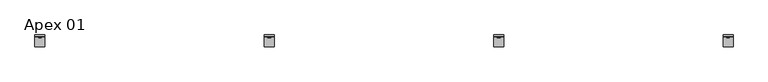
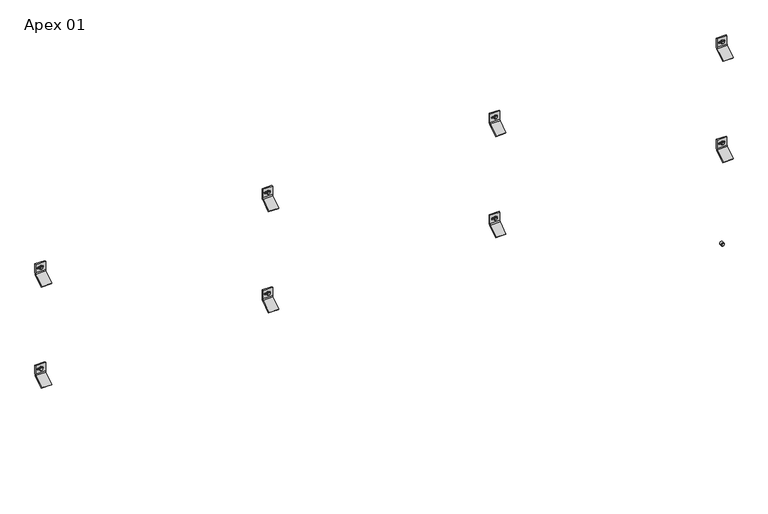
"""IFC4 building model written with IfcOpenShell, lengths in millimetres: plate geometry, Single-Panel-Perforated-Amico_Architectural : Apex 01."""

from ifc_helpers import new_model, si_unit, point, frame, frame_2d, origin, place, context, project, spatial, polyline, circle_curve, trimmed, segment, composite_curve, outline, extrude, source, transform, mapped, element, save
from ifc_brep_helpers import plane_surface, cylinder_surface, revolved_surface, advanced_brep


def apex_01_5bf36cf1(model_context):
    return source(origin(), model_context, "Body", "SolidModel", [
        extrude(outline(polyline([(1398.6045323, 1303.0820034), (1394.2588197, 1305.5910017), (1394.2588197, 1310.6089983), (1398.6045323, 1313.1179966), (1402.9502448, 1310.6089983), (1402.9502448, 1305.5910017), (1398.6045323, 1303.0820034)])), frame((0.0, -58.7607779, 0.0), z_axis=(0.0, 1.0, 0.0), x_axis=(0.0, 0.0, 1.0)), (0.0, 0.0, 1.0), 11.1357779),
        extrude(outline(composite_curve([segment(trimmed(circle_curve(frame_2d((1398.6978392, 1308.1)), 6.35), [point((1398.6978392, 1314.45))], [point((1398.6978392, 1301.75))], False, "CARTESIAN"), True, "CONTINUOUS"), segment(trimmed(circle_curve(frame_2d((1398.6978392, 1308.1)), 6.35), [point((1398.6978392, 1301.75))], [point((1398.6978392, 1314.45))], False, "CARTESIAN"), True, "CONTINUOUS")], self_intersect=False)), frame((0.0, -57.0817743, 0.0), z_axis=(0.0, 1.0, 0.0), x_axis=(0.0, 0.0, 1.0)), (0.0, 0.0, 1.0), 9.4567743),
        advanced_brep(
        [(1289.05, -47.625, 1381.4552202), (1289.05, -51.2819443, 1373.7931877), (1289.05, -89.5163624, 1347.02116), (1289.05, -92.9330442, 1350.4378418), (1289.05, -54.3526876, 1377.4520983), (1289.05, -52.4002, 1381.4552911), (1289.05, -52.4002, 1415.6479053), (1289.05, -47.625, 1415.6479053), (1327.15, -47.625, 1381.4552202), (1327.15, -47.625, 1415.6479053), (1327.15, -52.4002, 1415.6479053), (1327.15, -52.4002, 1381.4552911), (1327.15, -54.3526876, 1377.4520983), (1327.15, -92.9330442, 1350.4378418), (1327.15, -89.5163624, 1347.02116), (1327.15, -51.2819443, 1373.7931877), (1314.8411889, -52.4002, 1401.6026891), (1314.8411889, -52.4002, 1395.2526891), (1298.6133287, -52.4002, 1395.2526891), (1298.6133287, -52.4002, 1401.6026891), (1314.8411889, -47.625, 1395.2526891), (1314.8411889, -47.625, 1401.6026891), (1298.6133287, -47.625, 1401.6026891), (1298.6133287, -47.625, 1395.2526891)],
        [
            (0, 1, circle_curve(frame((1289.05, -57.4802202, 1381.4552202), z_axis=(-1.0, 0.0, 0.0), x_axis=(0.0, -1.0, 0.0)), 9.8552202)),
            (1, 2),
            (2, 3),
            (3, 4),
            (4, 5, circle_curve(frame((1289.05, -57.4803246, 1381.4552911), z_axis=(1.0, 0.0, 0.0), x_axis=(0.0, -1.0, 0.0)), 5.0801246)),
            (5, 6),
            (6, 7),
            (7, 0),
            (8, 9),
            (9, 10),
            (10, 11),
            (11, 12, circle_curve(frame((1327.15, -57.4803246, 1381.4552911), z_axis=(-1.0, 0.0, 0.0), x_axis=(0.0, -1.0, 0.0)), 5.0801246)),
            (12, 13),
            (13, 14),
            (14, 15),
            (15, 8, circle_curve(frame((1327.15, -57.4802202, 1381.4552202), z_axis=(1.0, 0.0, 0.0), x_axis=(0.0, -1.0, 0.0)), 9.8552202)),
            (4, 12),
            (11, 5),
            (10, 6),
            (16, 17, circle_curve(frame((1314.8411889, -52.4002, 1398.4276891), z_axis=(0.0, 1.0, 0.0), x_axis=(0.0, 0.0, -1.0)), 3.175)),
            (17, 18),
            (18, 19, circle_curve(frame((1298.6133287, -52.4002, 1398.4276891), z_axis=(0.0, 1.0, 0.0), x_axis=(0.0, 0.0, -1.0)), 3.175)),
            (19, 16),
            (9, 7),
            (8, 0),
            (20, 21, circle_curve(frame((1314.8411889, -47.625, 1398.4276891), z_axis=(0.0, -1.0, 0.0), x_axis=(0.0, 0.0, -1.0)), 3.175)),
            (21, 22),
            (22, 23, circle_curve(frame((1298.6133287, -47.625, 1398.4276891), z_axis=(0.0, -1.0, 0.0), x_axis=(0.0, 0.0, -1.0)), 3.175)),
            (23, 20),
            (15, 1),
            (20, 17),
            (16, 21),
            (19, 22),
            (18, 23),
            (14, 2),
            (13, 3),
        ],
        [
            plane_surface(frame((1289.05, -67.3354404, 1381.4552202), z_axis=(-1.0, 0.0, 0.0), x_axis=(0.0, 0.0, 1.0))),
            plane_surface(frame((1327.15, -67.3354404, 1381.4552202), z_axis=(1.0, 0.0, 0.0), x_axis=(0.0, 0.0, -1.0))),
            revolved_surface(polyline([(1327.15, -62.5604492, 1381.4552911), (1289.05, -62.5604492, 1381.4552911)]), (1327.15, -57.4803246, 1381.4552911), (1.0, 0.0, 0.0)),
            plane_surface(frame((1289.05, -52.4002, 1381.4552911), z_axis=(0.0, -1.0, 0.0), x_axis=(1.0, 0.0, 0.0))),
            plane_surface(frame((1289.05, -52.4002, 1415.6479053), z_axis=(0.0, 0.0, 1.0), x_axis=(1.0, 0.0, 0.0))),
            plane_surface(frame((1289.05, -47.625, 1415.6479053), z_axis=(0.0, 1.0, 6.99569853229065e-12), x_axis=(1.0, 0.0, 0.0))),
            cylinder_surface(frame((1327.15, -57.4802202, 1381.4552202), z_axis=(-1.0, 0.0, 0.0), x_axis=(0.0, -1.0, 0.0)), 9.8552202),
            revolved_surface(polyline([(1314.8411889, -52.4002, 1395.2526891), (1314.8411889, -47.625, 1395.2526891)]), (1314.8411889, -25.6669948, 1398.4276891), (0.0, -1.0, 0.0)),
            plane_surface(frame((1314.8411889, -86.677982, 1401.6026891), z_axis=(0.0, 0.0, -1.0), x_axis=(0.0, 1.0, 0.0))),
            revolved_surface(polyline([(1298.6133287, -52.4002, 1395.2526891), (1298.6133287, -47.625, 1395.2526891)]), (1298.6133287, -25.6669948, 1398.4276891), (0.0, -1.0, 0.0)),
            plane_surface(frame((1298.6133287, -86.677982, 1395.2526891), z_axis=(-2.7237720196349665e-11, 0.0, 1.0), x_axis=(0.0, 1.0, 0.0))),
            plane_surface(frame((1289.05, -51.2819443, 1373.7931877), z_axis=(0.0, 0.5735764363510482, -0.8191520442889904), x_axis=(1.0, 0.0, 0.0))),
            plane_surface(frame((1289.05, -89.5163624, 1347.02116), z_axis=(0.0, -0.7071067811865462, -0.7071067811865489), x_axis=(1.0, 0.0, 0.0))),
            plane_surface(frame((1289.05, -92.9330442, 1350.4378418), z_axis=(0.0, -0.5735764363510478, 0.8191520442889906), x_axis=(1.0, 0.0, 0.0))),
        ],
        [
            (0, [[1, 2, 3, 4, 5, 6, 7, 8]]),
            (1, [[9, 10, 11, 12, 13, 14, 15, 16]]),
            (2, [[-5, 17, -12, 18]]),
            (3, [[-6, -18, -11, 19], [20, 21, 22, 23]]),
            (4, [[-7, -19, -10, 24]]),
            (5, [[-8, -24, -9, 25], [26, 27, 28, 29]]),
            (6, [[-1, -25, -16, 30]]),
            (7, [[31, -20, 32, -26]]),
            (8, [[-32, -23, 33, -27]]),
            (9, [[-33, -22, 34, -28]]),
            (10, [[-31, -29, -34, -21]]),
            (11, [[-2, -30, -15, 35]]),
            (12, [[-3, -35, -14, 36]]),
            (13, [[-4, -36, -13, -17]]),
        ],
    ),
        extrude(outline(polyline([(1398.6045323, 431.0153368), (1394.2588197, 433.524335), (1394.2588197, 438.5423316), (1398.6045323, 441.0513299), (1402.9502448, 438.5423316), (1402.9502448, 433.524335), (1398.6045323, 431.0153368)])), frame((0.0, -58.7607779, 0.0), z_axis=(0.0, 1.0, 0.0), x_axis=(0.0, 0.0, 1.0)), (0.0, 0.0, 1.0), 11.1357779),
        extrude(outline(composite_curve([segment(trimmed(circle_curve(frame_2d((1398.6978392, 436.0333333)), 6.35), [point((1398.6978392, 442.3833333))], [point((1398.6978392, 429.6833333))], False, "CARTESIAN"), True, "CONTINUOUS"), segment(trimmed(circle_curve(frame_2d((1398.6978392, 436.0333333)), 6.35), [point((1398.6978392, 429.6833333))], [point((1398.6978392, 442.3833333))], False, "CARTESIAN"), True, "CONTINUOUS")], self_intersect=False)), frame((0.0, -57.0817743, 0.0), z_axis=(0.0, 1.0, 0.0), x_axis=(0.0, 0.0, 1.0)), (0.0, 0.0, 1.0), 9.4567743),
        advanced_brep(
        [(416.9833333, -47.625, 1381.4552202), (416.9833333, -51.2819443, 1373.7931877), (416.9833333, -89.5163624, 1347.02116), (416.9833333, -92.9330442, 1350.4378418), (416.9833333, -54.3526876, 1377.4520983), (416.9833333, -52.4002, 1381.4552911), (416.9833333, -52.4002, 1415.6479053), (416.9833333, -47.625, 1415.6479053), (455.0833333, -47.625, 1381.4552202), (455.0833333, -47.625, 1415.6479053), (455.0833333, -52.4002, 1415.6479053), (455.0833333, -52.4002, 1381.4552911), (455.0833333, -54.3526876, 1377.4520983), (455.0833333, -92.9330442, 1350.4378418), (455.0833333, -89.5163624, 1347.02116), (455.0833333, -51.2819443, 1373.7931877), (442.7745222, -52.4002, 1401.6026891), (442.7745222, -52.4002, 1395.2526891), (426.546662, -52.4002, 1395.2526891), (426.546662, -52.4002, 1401.6026891), (442.7745222, -47.625, 1395.2526891), (442.7745222, -47.625, 1401.6026891), (426.546662, -47.625, 1401.6026891), (426.546662, -47.625, 1395.2526891)],
        [
            (0, 1, circle_curve(frame((416.9833333, -57.4802202, 1381.4552202), z_axis=(-1.0, 0.0, 0.0), x_axis=(0.0, -1.0, 0.0)), 9.8552202)),
            (1, 2),
            (2, 3),
            (3, 4),
            (4, 5, circle_curve(frame((416.9833333, -57.4803246, 1381.4552911), z_axis=(1.0, 0.0, 0.0), x_axis=(0.0, -1.0, 0.0)), 5.0801246)),
            (5, 6),
            (6, 7),
            (7, 0),
            (8, 9),
            (9, 10),
            (10, 11),
            (11, 12, circle_curve(frame((455.0833333, -57.4803246, 1381.4552911), z_axis=(-1.0, 0.0, 0.0), x_axis=(0.0, -1.0, 0.0)), 5.0801246)),
            (12, 13),
            (13, 14),
            (14, 15),
            (15, 8, circle_curve(frame((455.0833333, -57.4802202, 1381.4552202), z_axis=(1.0, 0.0, 0.0), x_axis=(0.0, -1.0, 0.0)), 9.8552202)),
            (4, 12),
            (11, 5),
            (10, 6),
            (16, 17, circle_curve(frame((442.7745222, -52.4002, 1398.4276891), z_axis=(0.0, 1.0, 0.0), x_axis=(0.0, 0.0, -1.0)), 3.175)),
            (17, 18),
            (18, 19, circle_curve(frame((426.546662, -52.4002, 1398.4276891), z_axis=(0.0, 1.0, 0.0), x_axis=(0.0, 0.0, -1.0)), 3.175)),
            (19, 16),
            (9, 7),
            (8, 0),
            (20, 21, circle_curve(frame((442.7745222, -47.625, 1398.4276891), z_axis=(0.0, -1.0, 0.0), x_axis=(0.0, 0.0, -1.0)), 3.175)),
            (21, 22),
            (22, 23, circle_curve(frame((426.546662, -47.625, 1398.4276891), z_axis=(0.0, -1.0, 0.0), x_axis=(0.0, 0.0, -1.0)), 3.175)),
            (23, 20),
            (15, 1),
            (20, 17),
            (16, 21),
            (19, 22),
            (18, 23),
            (14, 2),
            (13, 3),
        ],
        [
            plane_surface(frame((416.9833333, -67.3354404, 1381.4552202), z_axis=(-1.0, 0.0, 0.0), x_axis=(0.0, 0.0, 1.0))),
            plane_surface(frame((455.0833333, -67.3354404, 1381.4552202), z_axis=(1.0, 0.0, 0.0), x_axis=(0.0, 0.0, -1.0))),
            revolved_surface(polyline([(455.0833333, -62.5604492, 1381.4552911), (416.9833333, -62.5604492, 1381.4552911)]), (455.0833333, -57.4803246, 1381.4552911), (1.0, 0.0, 0.0)),
            plane_surface(frame((416.9833333, -52.4002, 1381.4552911), z_axis=(0.0, -1.0, 0.0), x_axis=(1.0, 0.0, 0.0))),
            plane_surface(frame((416.9833333, -52.4002, 1415.6479053), z_axis=(0.0, 0.0, 1.0), x_axis=(1.0, 0.0, 0.0))),
            plane_surface(frame((416.9833333, -47.625, 1415.6479053), z_axis=(0.0, 1.0, 6.99569853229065e-12), x_axis=(1.0, 0.0, 0.0))),
            cylinder_surface(frame((455.0833333, -57.4802202, 1381.4552202), z_axis=(-1.0, 0.0, 0.0), x_axis=(0.0, -1.0, 0.0)), 9.8552202),
            revolved_surface(polyline([(442.7745222, -52.4002, 1395.2526891), (442.7745222, -47.625, 1395.2526891)]), (442.7745222, -25.6669948, 1398.4276891), (0.0, -1.0, 0.0)),
            plane_surface(frame((442.7745222, -86.677982, 1401.6026891), z_axis=(0.0, 0.0, -1.0), x_axis=(0.0, 1.0, 0.0))),
            revolved_surface(polyline([(426.546662, -52.4002, 1395.2526891), (426.546662, -47.625, 1395.2526891)]), (426.546662, -25.6669948, 1398.4276891), (0.0, -1.0, 0.0)),
            plane_surface(frame((426.546662, -86.677982, 1395.2526891), z_axis=(-2.7237720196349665e-11, 0.0, 1.0), x_axis=(0.0, 1.0, 0.0))),
            plane_surface(frame((416.9833333, -51.2819443, 1373.7931877), z_axis=(0.0, 0.5735764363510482, -0.8191520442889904), x_axis=(1.0, 0.0, 0.0))),
            plane_surface(frame((416.9833333, -89.5163624, 1347.02116), z_axis=(0.0, -0.7071067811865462, -0.7071067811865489), x_axis=(1.0, 0.0, 0.0))),
            plane_surface(frame((416.9833333, -92.9330442, 1350.4378418), z_axis=(0.0, -0.5735764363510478, 0.8191520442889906), x_axis=(1.0, 0.0, 0.0))),
        ],
        [
            (0, [[1, 2, 3, 4, 5, 6, 7, 8]]),
            (1, [[9, 10, 11, 12, 13, 14, 15, 16]]),
            (2, [[-5, 17, -12, 18]]),
            (3, [[-6, -18, -11, 19], [20, 21, 22, 23]]),
            (4, [[-7, -19, -10, 24]]),
            (5, [[-8, -24, -9, 25], [26, 27, 28, 29]]),
            (6, [[-1, -25, -16, 30]]),
            (7, [[31, -20, 32, -26]]),
            (8, [[-32, -23, 33, -27]]),
            (9, [[-33, -22, 34, -28]]),
            (10, [[-31, -29, -34, -21]]),
            (11, [[-2, -30, -15, 35]]),
            (12, [[-3, -35, -14, 36]]),
            (13, [[-4, -36, -13, -17]]),
        ],
    ),
        extrude(outline(polyline([(1398.6045323, -441.0513299), (1394.2588197, -438.5423316), (1394.2588197, -433.524335), (1398.6045323, -431.0153368), (1402.9502448, -433.524335), (1402.9502448, -438.5423316), (1398.6045323, -441.0513299)])), frame((0.0, -58.7607779, 0.0), z_axis=(0.0, 1.0, 0.0), x_axis=(0.0, 0.0, 1.0)), (0.0, 0.0, 1.0), 11.1357779),
        extrude(outline(composite_curve([segment(trimmed(circle_curve(frame_2d((1398.6978392, -436.0333333)), 6.35), [point((1398.6978392, -429.6833333))], [point((1398.6978392, -442.3833333))], False, "CARTESIAN"), True, "CONTINUOUS"), segment(trimmed(circle_curve(frame_2d((1398.6978392, -436.0333333)), 6.35), [point((1398.6978392, -442.3833333))], [point((1398.6978392, -429.6833333))], False, "CARTESIAN"), True, "CONTINUOUS")], self_intersect=False)), frame((0.0, -57.0817743, 0.0), z_axis=(0.0, 1.0, 0.0), x_axis=(0.0, 0.0, 1.0)), (0.0, 0.0, 1.0), 9.4567743),
        advanced_brep(
        [(-455.0833333, -47.625, 1381.4552202), (-455.0833333, -51.2819443, 1373.7931877), (-455.0833333, -89.5163624, 1347.02116), (-455.0833333, -92.9330442, 1350.4378418), (-455.0833333, -54.3526876, 1377.4520983), (-455.0833333, -52.4002, 1381.4552911), (-455.0833333, -52.4002, 1415.6479053), (-455.0833333, -47.625, 1415.6479053), (-416.9833333, -47.625, 1381.4552202), (-416.9833333, -47.625, 1415.6479053), (-416.9833333, -52.4002, 1415.6479053), (-416.9833333, -52.4002, 1381.4552911), (-416.9833333, -54.3526876, 1377.4520983), (-416.9833333, -92.9330442, 1350.4378418), (-416.9833333, -89.5163624, 1347.02116), (-416.9833333, -51.2819443, 1373.7931877), (-429.2921444, -52.4002, 1401.6026891), (-429.2921444, -52.4002, 1395.2526891), (-445.5200046, -52.4002, 1395.2526891), (-445.5200046, -52.4002, 1401.6026891), (-429.2921444, -47.625, 1395.2526891), (-429.2921444, -47.625, 1401.6026891), (-445.5200046, -47.625, 1401.6026891), (-445.5200046, -47.625, 1395.2526891)],
        [
            (0, 1, circle_curve(frame((-455.0833333, -57.4802202, 1381.4552202), z_axis=(-1.0, 0.0, 0.0), x_axis=(0.0, -1.0, 0.0)), 9.8552202)),
            (1, 2),
            (2, 3),
            (3, 4),
            (4, 5, circle_curve(frame((-455.0833333, -57.4803246, 1381.4552911), z_axis=(1.0, 0.0, 0.0), x_axis=(0.0, -1.0, 0.0)), 5.0801246)),
            (5, 6),
            (6, 7),
            (7, 0),
            (8, 9),
            (9, 10),
            (10, 11),
            (11, 12, circle_curve(frame((-416.9833333, -57.4803246, 1381.4552911), z_axis=(-1.0, 0.0, 0.0), x_axis=(0.0, -1.0, 0.0)), 5.0801246)),
            (12, 13),
            (13, 14),
            (14, 15),
            (15, 8, circle_curve(frame((-416.9833333, -57.4802202, 1381.4552202), z_axis=(1.0, 0.0, 0.0), x_axis=(0.0, -1.0, 0.0)), 9.8552202)),
            (4, 12),
            (11, 5),
            (10, 6),
            (16, 17, circle_curve(frame((-429.2921444, -52.4002, 1398.4276891), z_axis=(0.0, 1.0, 0.0), x_axis=(0.0, 0.0, -1.0)), 3.175)),
            (17, 18),
            (18, 19, circle_curve(frame((-445.5200046, -52.4002, 1398.4276891), z_axis=(0.0, 1.0, 0.0), x_axis=(0.0, 0.0, -1.0)), 3.175)),
            (19, 16),
            (9, 7),
            (8, 0),
            (20, 21, circle_curve(frame((-429.2921444, -47.625, 1398.4276891), z_axis=(0.0, -1.0, 0.0), x_axis=(0.0, 0.0, -1.0)), 3.175)),
            (21, 22),
            (22, 23, circle_curve(frame((-445.5200046, -47.625, 1398.4276891), z_axis=(0.0, -1.0, 0.0), x_axis=(0.0, 0.0, -1.0)), 3.175)),
            (23, 20),
            (15, 1),
            (20, 17),
            (16, 21),
            (19, 22),
            (18, 23),
            (14, 2),
            (13, 3),
        ],
        [
            plane_surface(frame((-455.0833333, -67.3354404, 1381.4552202), z_axis=(-1.0, 0.0, 0.0), x_axis=(0.0, 0.0, 1.0))),
            plane_surface(frame((-416.9833333, -67.3354404, 1381.4552202), z_axis=(1.0, 0.0, 0.0), x_axis=(0.0, 0.0, -1.0))),
            revolved_surface(polyline([(-416.9833333, -62.5604492, 1381.4552911), (-455.0833333, -62.5604492, 1381.4552911)]), (-416.9833333, -57.4803246, 1381.4552911), (1.0, 0.0, 0.0)),
            plane_surface(frame((-455.0833333, -52.4002, 1381.4552911), z_axis=(0.0, -1.0, 0.0), x_axis=(1.0, 0.0, 0.0))),
            plane_surface(frame((-455.0833333, -52.4002, 1415.6479053), z_axis=(0.0, 0.0, 1.0), x_axis=(1.0, 0.0, 0.0))),
            plane_surface(frame((-455.0833333, -47.625, 1415.6479053), z_axis=(0.0, 1.0, 6.99569853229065e-12), x_axis=(1.0, 0.0, 0.0))),
            cylinder_surface(frame((-416.9833333, -57.4802202, 1381.4552202), z_axis=(-1.0, 0.0, 0.0), x_axis=(0.0, -1.0, 0.0)), 9.8552202),
            revolved_surface(polyline([(-429.2921444, -52.4002, 1395.2526891), (-429.2921444, -47.625, 1395.2526891)]), (-429.2921444, -25.6669948, 1398.4276891), (0.0, -1.0, 0.0)),
            plane_surface(frame((-429.2921444, -86.677982, 1401.6026891), z_axis=(0.0, 0.0, -1.0), x_axis=(0.0, 1.0, 0.0))),
            revolved_surface(polyline([(-445.5200046, -52.4002, 1395.2526891), (-445.5200046, -47.625, 1395.2526891)]), (-445.5200046, -25.6669948, 1398.4276891), (0.0, -1.0, 0.0)),
            plane_surface(frame((-445.5200046, -86.677982, 1395.2526891), z_axis=(-2.7237720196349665e-11, 0.0, 1.0), x_axis=(0.0, 1.0, 0.0))),
            plane_surface(frame((-455.0833333, -51.2819443, 1373.7931877), z_axis=(0.0, 0.5735764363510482, -0.8191520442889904), x_axis=(1.0, 0.0, 0.0))),
            plane_surface(frame((-455.0833333, -89.5163624, 1347.02116), z_axis=(0.0, -0.7071067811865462, -0.7071067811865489), x_axis=(1.0, 0.0, 0.0))),
            plane_surface(frame((-455.0833333, -92.9330442, 1350.4378418), z_axis=(0.0, -0.5735764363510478, 0.8191520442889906), x_axis=(1.0, 0.0, 0.0))),
        ],
        [
            (0, [[1, 2, 3, 4, 5, 6, 7, 8]]),
            (1, [[9, 10, 11, 12, 13, 14, 15, 16]]),
            (2, [[-5, 17, -12, 18]]),
            (3, [[-6, -18, -11, 19], [20, 21, 22, 23]]),
            (4, [[-7, -19, -10, 24]]),
            (5, [[-8, -24, -9, 25], [26, 27, 28, 29]]),
            (6, [[-1, -25, -16, 30]]),
            (7, [[31, -20, 32, -26]]),
            (8, [[-32, -23, 33, -27]]),
            (9, [[-33, -22, 34, -28]]),
            (10, [[-31, -29, -34, -21]]),
            (11, [[-2, -30, -15, 35]]),
            (12, [[-3, -35, -14, 36]]),
            (13, [[-4, -36, -13, -17]]),
        ],
    ),
        extrude(outline(polyline([(1398.6045323, -1313.1179966), (1394.2588197, -1310.6089983), (1394.2588197, -1305.5910017), (1398.6045323, -1303.0820034), (1402.9502448, -1305.5910017), (1402.9502448, -1310.6089983), (1398.6045323, -1313.1179966)])), frame((0.0, -58.7607779, 0.0), z_axis=(0.0, 1.0, 0.0), x_axis=(0.0, 0.0, 1.0)), (0.0, 0.0, 1.0), 11.1357779),
        extrude(outline(composite_curve([segment(trimmed(circle_curve(frame_2d((1398.6978392, -1308.1)), 6.35), [point((1398.6978392, -1301.75))], [point((1398.6978392, -1314.45))], False, "CARTESIAN"), True, "CONTINUOUS"), segment(trimmed(circle_curve(frame_2d((1398.6978392, -1308.1)), 6.35), [point((1398.6978392, -1314.45))], [point((1398.6978392, -1301.75))], False, "CARTESIAN"), True, "CONTINUOUS")], self_intersect=False)), frame((0.0, -57.0817743, 0.0), z_axis=(0.0, 1.0, 0.0), x_axis=(0.0, 0.0, 1.0)), (0.0, 0.0, 1.0), 9.4567743),
        advanced_brep(
        [(-1327.15, -47.625, 1381.4552202), (-1327.15, -51.2819443, 1373.7931877), (-1327.15, -89.5163624, 1347.02116), (-1327.15, -92.9330442, 1350.4378418), (-1327.15, -54.3526876, 1377.4520983), (-1327.15, -52.4002, 1381.4552911), (-1327.15, -52.4002, 1415.6479053), (-1327.15, -47.625, 1415.6479053), (-1289.05, -47.625, 1381.4552202), (-1289.05, -47.625, 1415.6479053), (-1289.05, -52.4002, 1415.6479053), (-1289.05, -52.4002, 1381.4552911), (-1289.05, -54.3526876, 1377.4520983), (-1289.05, -92.9330442, 1350.4378418), (-1289.05, -89.5163624, 1347.02116), (-1289.05, -51.2819443, 1373.7931877), (-1301.3588111, -52.4002, 1401.6026891), (-1301.3588111, -52.4002, 1395.2526891), (-1317.5866713, -52.4002, 1395.2526891), (-1317.5866713, -52.4002, 1401.6026891), (-1301.3588111, -47.625, 1395.2526891), (-1301.3588111, -47.625, 1401.6026891), (-1317.5866713, -47.625, 1401.6026891), (-1317.5866713, -47.625, 1395.2526891)],
        [
            (0, 1, circle_curve(frame((-1327.15, -57.4802202, 1381.4552202), z_axis=(-1.0, 0.0, 0.0), x_axis=(0.0, -1.0, 0.0)), 9.8552202)),
            (1, 2),
            (2, 3),
            (3, 4),
            (4, 5, circle_curve(frame((-1327.15, -57.4803246, 1381.4552911), z_axis=(1.0, 0.0, 0.0), x_axis=(0.0, -1.0, 0.0)), 5.0801246)),
            (5, 6),
            (6, 7),
            (7, 0),
            (8, 9),
            (9, 10),
            (10, 11),
            (11, 12, circle_curve(frame((-1289.05, -57.4803246, 1381.4552911), z_axis=(-1.0, 0.0, 0.0), x_axis=(0.0, -1.0, 0.0)), 5.0801246)),
            (12, 13),
            (13, 14),
            (14, 15),
            (15, 8, circle_curve(frame((-1289.05, -57.4802202, 1381.4552202), z_axis=(1.0, 0.0, 0.0), x_axis=(0.0, -1.0, 0.0)), 9.8552202)),
            (4, 12),
            (11, 5),
            (10, 6),
            (16, 17, circle_curve(frame((-1301.3588111, -52.4002, 1398.4276891), z_axis=(0.0, 1.0, 0.0), x_axis=(0.0, 0.0, -1.0)), 3.175)),
            (17, 18),
            (18, 19, circle_curve(frame((-1317.5866713, -52.4002, 1398.4276891), z_axis=(0.0, 1.0, 0.0), x_axis=(0.0, 0.0, -1.0)), 3.175)),
            (19, 16),
            (9, 7),
            (8, 0),
            (20, 21, circle_curve(frame((-1301.3588111, -47.625, 1398.4276891), z_axis=(0.0, -1.0, 0.0), x_axis=(0.0, 0.0, -1.0)), 3.175)),
            (21, 22),
            (22, 23, circle_curve(frame((-1317.5866713, -47.625, 1398.4276891), z_axis=(0.0, -1.0, 0.0), x_axis=(0.0, 0.0, -1.0)), 3.175)),
            (23, 20),
            (15, 1),
            (20, 17),
            (16, 21),
            (19, 22),
            (18, 23),
            (14, 2),
            (13, 3),
        ],
        [
            plane_surface(frame((-1327.15, -67.3354404, 1381.4552202), z_axis=(-1.0, 0.0, 0.0), x_axis=(0.0, 0.0, 1.0))),
            plane_surface(frame((-1289.05, -67.3354404, 1381.4552202), z_axis=(1.0, 0.0, 0.0), x_axis=(0.0, 0.0, -1.0))),
            revolved_surface(polyline([(-1289.05, -62.5604492, 1381.4552911), (-1327.15, -62.5604492, 1381.4552911)]), (-1289.05, -57.4803246, 1381.4552911), (1.0, 0.0, 0.0)),
            plane_surface(frame((-1327.15, -52.4002, 1381.4552911), z_axis=(0.0, -1.0, 0.0), x_axis=(1.0, 0.0, 0.0))),
            plane_surface(frame((-1327.15, -52.4002, 1415.6479053), z_axis=(0.0, 0.0, 1.0), x_axis=(1.0, 0.0, 0.0))),
            plane_surface(frame((-1327.15, -47.625, 1415.6479053), z_axis=(0.0, 1.0, 6.99569853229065e-12), x_axis=(1.0, 0.0, 0.0))),
            cylinder_surface(frame((-1289.05, -57.4802202, 1381.4552202), z_axis=(-1.0, 0.0, 0.0), x_axis=(0.0, -1.0, 0.0)), 9.8552202),
            revolved_surface(polyline([(-1301.3588111, -52.4002, 1395.2526891), (-1301.3588111, -47.625, 1395.2526891)]), (-1301.3588111, -25.6669948, 1398.4276891), (0.0, -1.0, 0.0)),
            plane_surface(frame((-1301.3588111, -86.677982, 1401.6026891), z_axis=(0.0, 0.0, -1.0), x_axis=(0.0, 1.0, 0.0))),
            revolved_surface(polyline([(-1317.5866713, -52.4002, 1395.2526891), (-1317.5866713, -47.625, 1395.2526891)]), (-1317.5866713, -25.6669948, 1398.4276891), (0.0, -1.0, 0.0)),
            plane_surface(frame((-1317.5866713, -86.677982, 1395.2526891), z_axis=(-2.7237720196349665e-11, 0.0, 1.0), x_axis=(0.0, 1.0, 0.0))),
            plane_surface(frame((-1327.15, -51.2819443, 1373.7931877), z_axis=(0.0, 0.5735764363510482, -0.8191520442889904), x_axis=(1.0, 0.0, 0.0))),
            plane_surface(frame((-1327.15, -89.5163624, 1347.02116), z_axis=(0.0, -0.7071067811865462, -0.7071067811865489), x_axis=(1.0, 0.0, 0.0))),
            plane_surface(frame((-1327.15, -92.9330442, 1350.4378418), z_axis=(0.0, -0.5735764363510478, 0.8191520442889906), x_axis=(1.0, 0.0, 0.0))),
        ],
        [
            (0, [[1, 2, 3, 4, 5, 6, 7, 8]]),
            (1, [[9, 10, 11, 12, 13, 14, 15, 16]]),
            (2, [[-5, 17, -12, 18]]),
            (3, [[-6, -18, -11, 19], [20, 21, 22, 23]]),
            (4, [[-7, -19, -10, 24]]),
            (5, [[-8, -24, -9, 25], [26, 27, 28, 29]]),
            (6, [[-1, -25, -16, 30]]),
            (7, [[31, -20, 32, -26]]),
            (8, [[-32, -23, 33, -27]]),
            (9, [[-33, -22, 34, -28]]),
            (10, [[-31, -29, -34, -21]]),
            (11, [[-2, -30, -15, 35]]),
            (12, [[-3, -35, -14, 36]]),
            (13, [[-4, -36, -13, -17]]),
        ],
    ),
        extrude(outline(polyline([(987.9711989, 1303.0820034), (983.6254864, 1305.5910017), (983.6254864, 1310.6089983), (987.9711989, 1313.1179966), (992.3169114, 1310.6089983), (992.3169114, 1305.5910017), (987.9711989, 1303.0820034)])), frame((0.0, -58.7607779, 0.0), z_axis=(0.0, 1.0, 0.0), x_axis=(0.0, 0.0, 1.0)), (0.0, 0.0, 1.0), 11.1357779),
        extrude(outline(composite_curve([segment(trimmed(circle_curve(frame_2d((988.0645059, 1308.1)), 6.35), [point((988.0645059, 1314.45))], [point((988.0645059, 1301.75))], False, "CARTESIAN"), True, "CONTINUOUS"), segment(trimmed(circle_curve(frame_2d((988.0645059, 1308.1)), 6.35), [point((988.0645059, 1301.75))], [point((988.0645059, 1314.45))], False, "CARTESIAN"), True, "CONTINUOUS")], self_intersect=False)), frame((0.0, -57.0817743, 0.0), z_axis=(0.0, 1.0, 0.0), x_axis=(0.0, 0.0, 1.0)), (0.0, 0.0, 1.0), 9.4567743),
        advanced_brep(
        [(1289.05, -47.625, 970.8218868), (1289.05, -51.2819443, 963.1598544), (1289.05, -89.5163624, 936.3878266), (1289.05, -92.9330442, 939.8045084), (1289.05, -54.3526876, 966.8187649), (1289.05, -52.4002, 970.8219577), (1289.05, -52.4002, 1005.014572), (1289.05, -47.625, 1005.014572), (1327.15, -47.625, 970.8218868), (1327.15, -47.625, 1005.014572), (1327.15, -52.4002, 1005.014572), (1327.15, -52.4002, 970.8219577), (1327.15, -54.3526876, 966.8187649), (1327.15, -92.9330442, 939.8045084), (1327.15, -89.5163624, 936.3878266), (1327.15, -51.2819443, 963.1598544), (1314.8411889, -52.4002, 990.9693558), (1314.8411889, -52.4002, 984.6193558), (1298.6133287, -52.4002, 984.6193558), (1298.6133287, -52.4002, 990.9693558), (1314.8411889, -47.625, 984.6193558), (1314.8411889, -47.625, 990.9693558), (1298.6133287, -47.625, 990.9693558), (1298.6133287, -47.625, 984.6193558)],
        [
            (0, 1, circle_curve(frame((1289.05, -57.4802202, 970.8218868), z_axis=(-1.0, 0.0, 0.0), x_axis=(0.0, -1.0, 0.0)), 9.8552202)),
            (1, 2),
            (2, 3),
            (3, 4),
            (4, 5, circle_curve(frame((1289.05, -57.4803246, 970.8219577), z_axis=(1.0, 0.0, 0.0), x_axis=(0.0, -1.0, 0.0)), 5.0801246)),
            (5, 6),
            (6, 7),
            (7, 0),
            (8, 9),
            (9, 10),
            (10, 11),
            (11, 12, circle_curve(frame((1327.15, -57.4803246, 970.8219577), z_axis=(-1.0, 0.0, 0.0), x_axis=(0.0, -1.0, 0.0)), 5.0801246)),
            (12, 13),
            (13, 14),
            (14, 15),
            (15, 8, circle_curve(frame((1327.15, -57.4802202, 970.8218868), z_axis=(1.0, 0.0, 0.0), x_axis=(0.0, -1.0, 0.0)), 9.8552202)),
            (4, 12),
            (11, 5),
            (10, 6),
            (16, 17, circle_curve(frame((1314.8411889, -52.4002, 987.7943558), z_axis=(0.0, 1.0, 0.0), x_axis=(0.0, 0.0, -1.0)), 3.175)),
            (17, 18),
            (18, 19, circle_curve(frame((1298.6133287, -52.4002, 987.7943558), z_axis=(0.0, 1.0, 0.0), x_axis=(0.0, 0.0, -1.0)), 3.175)),
            (19, 16),
            (9, 7),
            (8, 0),
            (20, 21, circle_curve(frame((1314.8411889, -47.625, 987.7943558), z_axis=(0.0, -1.0, 0.0), x_axis=(0.0, 0.0, -1.0)), 3.175)),
            (21, 22),
            (22, 23, circle_curve(frame((1298.6133287, -47.625, 987.7943558), z_axis=(0.0, -1.0, 0.0), x_axis=(0.0, 0.0, -1.0)), 3.175)),
            (23, 20),
            (15, 1),
            (20, 17),
            (16, 21),
            (19, 22),
            (18, 23),
            (14, 2),
            (13, 3),
        ],
        [
            plane_surface(frame((1289.05, -67.3354404, 970.8218868), z_axis=(-1.0, 0.0, 0.0), x_axis=(0.0, 0.0, 1.0))),
            plane_surface(frame((1327.15, -67.3354404, 970.8218868), z_axis=(1.0, 0.0, 0.0), x_axis=(0.0, 0.0, -1.0))),
            revolved_surface(polyline([(1327.15, -62.5604492, 970.8219577), (1289.05, -62.5604492, 970.8219577)]), (1327.15, -57.4803246, 970.8219577), (1.0, 0.0, 0.0)),
            plane_surface(frame((1289.05, -52.4002, 970.8219577), z_axis=(0.0, -1.0, 0.0), x_axis=(1.0, 0.0, 0.0))),
            plane_surface(frame((1289.05, -52.4002, 1005.014572), z_axis=(0.0, 0.0, 1.0), x_axis=(1.0, 0.0, 0.0))),
            plane_surface(frame((1289.05, -47.625, 1005.014572), z_axis=(0.0, 1.0, 6.99569853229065e-12), x_axis=(1.0, 0.0, 0.0))),
            cylinder_surface(frame((1327.15, -57.4802202, 970.8218868), z_axis=(-1.0, 0.0, 0.0), x_axis=(0.0, -1.0, 0.0)), 9.8552202),
            revolved_surface(polyline([(1314.8411889, -52.4002, 984.6193558), (1314.8411889, -47.625, 984.6193558)]), (1314.8411889, -25.6669948, 987.7943558), (0.0, -1.0, 0.0)),
            plane_surface(frame((1314.8411889, -86.677982, 990.9693558), z_axis=(0.0, 0.0, -1.0), x_axis=(0.0, 1.0, 0.0))),
            revolved_surface(polyline([(1298.6133287, -52.4002, 984.6193558), (1298.6133287, -47.625, 984.6193558)]), (1298.6133287, -25.6669948, 987.7943558), (0.0, -1.0, 0.0)),
            plane_surface(frame((1298.6133287, -86.677982, 984.6193558), z_axis=(-2.7237766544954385e-11, 0.0, 1.0), x_axis=(0.0, 1.0, 0.0))),
            plane_surface(frame((1289.05, -51.2819443, 963.1598544), z_axis=(0.0, 0.5735764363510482, -0.8191520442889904), x_axis=(1.0, 0.0, 0.0))),
            plane_surface(frame((1289.05, -89.5163624, 936.3878266), z_axis=(0.0, -0.7071067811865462, -0.7071067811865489), x_axis=(1.0, 0.0, 0.0))),
            plane_surface(frame((1289.05, -92.9330442, 939.8045084), z_axis=(0.0, -0.5735764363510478, 0.8191520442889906), x_axis=(1.0, 0.0, 0.0))),
        ],
        [
            (0, [[1, 2, 3, 4, 5, 6, 7, 8]]),
            (1, [[9, 10, 11, 12, 13, 14, 15, 16]]),
            (2, [[-5, 17, -12, 18]]),
            (3, [[-6, -18, -11, 19], [20, 21, 22, 23]]),
            (4, [[-7, -19, -10, 24]]),
            (5, [[-8, -24, -9, 25], [26, 27, 28, 29]]),
            (6, [[-1, -25, -16, 30]]),
            (7, [[31, -20, 32, -26]]),
            (8, [[-32, -23, 33, -27]]),
            (9, [[-33, -22, 34, -28]]),
            (10, [[-31, -29, -34, -21]]),
            (11, [[-2, -30, -15, 35]]),
            (12, [[-3, -35, -14, 36]]),
            (13, [[-4, -36, -13, -17]]),
        ],
    ),
        extrude(outline(polyline([(987.9711989, 431.0153368), (983.6254864, 433.524335), (983.6254864, 438.5423316), (987.9711989, 441.0513299), (992.3169114, 438.5423316), (992.3169114, 433.524335), (987.9711989, 431.0153368)])), frame((0.0, -58.7607779, 0.0), z_axis=(0.0, 1.0, 0.0), x_axis=(0.0, 0.0, 1.0)), (0.0, 0.0, 1.0), 11.1357779),
        extrude(outline(composite_curve([segment(trimmed(circle_curve(frame_2d((988.0645059, 436.0333333)), 6.35), [point((988.0645059, 442.3833333))], [point((988.0645059, 429.6833333))], False, "CARTESIAN"), True, "CONTINUOUS"), segment(trimmed(circle_curve(frame_2d((988.0645059, 436.0333333)), 6.35), [point((988.0645059, 429.6833333))], [point((988.0645059, 442.3833333))], False, "CARTESIAN"), True, "CONTINUOUS")], self_intersect=False)), frame((0.0, -57.0817743, 0.0), z_axis=(0.0, 1.0, 0.0), x_axis=(0.0, 0.0, 1.0)), (0.0, 0.0, 1.0), 9.4567743),
        advanced_brep(
        [(416.9833333, -47.625, 970.8218868), (416.9833333, -51.2819443, 963.1598544), (416.9833333, -89.5163624, 936.3878266), (416.9833333, -92.9330442, 939.8045084), (416.9833333, -54.3526876, 966.8187649), (416.9833333, -52.4002, 970.8219577), (416.9833333, -52.4002, 1005.014572), (416.9833333, -47.625, 1005.014572), (455.0833333, -47.625, 970.8218868), (455.0833333, -47.625, 1005.014572), (455.0833333, -52.4002, 1005.014572), (455.0833333, -52.4002, 970.8219577), (455.0833333, -54.3526876, 966.8187649), (455.0833333, -92.9330442, 939.8045084), (455.0833333, -89.5163624, 936.3878266), (455.0833333, -51.2819443, 963.1598544), (442.7745222, -52.4002, 990.9693558), (442.7745222, -52.4002, 984.6193558), (426.546662, -52.4002, 984.6193558), (426.546662, -52.4002, 990.9693558), (442.7745222, -47.625, 984.6193558), (442.7745222, -47.625, 990.9693558), (426.546662, -47.625, 990.9693558), (426.546662, -47.625, 984.6193558)],
        [
            (0, 1, circle_curve(frame((416.9833333, -57.4802202, 970.8218868), z_axis=(-1.0, 0.0, 0.0), x_axis=(0.0, -1.0, 0.0)), 9.8552202)),
            (1, 2),
            (2, 3),
            (3, 4),
            (4, 5, circle_curve(frame((416.9833333, -57.4803246, 970.8219577), z_axis=(1.0, 0.0, 0.0), x_axis=(0.0, -1.0, 0.0)), 5.0801246)),
            (5, 6),
            (6, 7),
            (7, 0),
            (8, 9),
            (9, 10),
            (10, 11),
            (11, 12, circle_curve(frame((455.0833333, -57.4803246, 970.8219577), z_axis=(-1.0, 0.0, 0.0), x_axis=(0.0, -1.0, 0.0)), 5.0801246)),
            (12, 13),
            (13, 14),
            (14, 15),
            (15, 8, circle_curve(frame((455.0833333, -57.4802202, 970.8218868), z_axis=(1.0, 0.0, 0.0), x_axis=(0.0, -1.0, 0.0)), 9.8552202)),
            (4, 12),
            (11, 5),
            (10, 6),
            (16, 17, circle_curve(frame((442.7745222, -52.4002, 987.7943558), z_axis=(0.0, 1.0, 0.0), x_axis=(0.0, 0.0, -1.0)), 3.175)),
            (17, 18),
            (18, 19, circle_curve(frame((426.546662, -52.4002, 987.7943558), z_axis=(0.0, 1.0, 0.0), x_axis=(0.0, 0.0, -1.0)), 3.175)),
            (19, 16),
            (9, 7),
            (8, 0),
            (20, 21, circle_curve(frame((442.7745222, -47.625, 987.7943558), z_axis=(0.0, -1.0, 0.0), x_axis=(0.0, 0.0, -1.0)), 3.175)),
            (21, 22),
            (22, 23, circle_curve(frame((426.546662, -47.625, 987.7943558), z_axis=(0.0, -1.0, 0.0), x_axis=(0.0, 0.0, -1.0)), 3.175)),
            (23, 20),
            (15, 1),
            (20, 17),
            (16, 21),
            (19, 22),
            (18, 23),
            (14, 2),
            (13, 3),
        ],
        [
            plane_surface(frame((416.9833333, -67.3354404, 970.8218868), z_axis=(-1.0, 0.0, 0.0), x_axis=(0.0, 0.0, 1.0))),
            plane_surface(frame((455.0833333, -67.3354404, 970.8218868), z_axis=(1.0, 0.0, 0.0), x_axis=(0.0, 0.0, -1.0))),
            revolved_surface(polyline([(455.0833333, -62.5604492, 970.8219577), (416.9833333, -62.5604492, 970.8219577)]), (455.0833333, -57.4803246, 970.8219577), (1.0, 0.0, 0.0)),
            plane_surface(frame((416.9833333, -52.4002, 970.8219577), z_axis=(0.0, -1.0, 0.0), x_axis=(1.0, 0.0, 0.0))),
            plane_surface(frame((416.9833333, -52.4002, 1005.014572), z_axis=(0.0, 0.0, 1.0), x_axis=(1.0, 0.0, 0.0))),
            plane_surface(frame((416.9833333, -47.625, 1005.014572), z_axis=(0.0, 1.0, 6.99569853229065e-12), x_axis=(1.0, 0.0, 0.0))),
            cylinder_surface(frame((455.0833333, -57.4802202, 970.8218868), z_axis=(-1.0, 0.0, 0.0), x_axis=(0.0, -1.0, 0.0)), 9.8552202),
            revolved_surface(polyline([(442.7745222, -52.4002, 984.6193558), (442.7745222, -47.625, 984.6193558)]), (442.7745222, -25.6669948, 987.7943558), (0.0, -1.0, 0.0)),
            plane_surface(frame((442.7745222, -86.677982, 990.9693558), z_axis=(0.0, 0.0, -1.0), x_axis=(0.0, 1.0, 0.0))),
            revolved_surface(polyline([(426.546662, -52.4002, 984.6193558), (426.546662, -47.625, 984.6193558)]), (426.546662, -25.6669948, 987.7943558), (0.0, -1.0, 0.0)),
            plane_surface(frame((426.546662, -86.677982, 984.6193558), z_axis=(-2.7237766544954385e-11, 0.0, 1.0), x_axis=(0.0, 1.0, 0.0))),
            plane_surface(frame((416.9833333, -51.2819443, 963.1598544), z_axis=(0.0, 0.5735764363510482, -0.8191520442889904), x_axis=(1.0, 0.0, 0.0))),
            plane_surface(frame((416.9833333, -89.5163624, 936.3878266), z_axis=(0.0, -0.7071067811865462, -0.7071067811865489), x_axis=(1.0, 0.0, 0.0))),
            plane_surface(frame((416.9833333, -92.9330442, 939.8045084), z_axis=(0.0, -0.5735764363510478, 0.8191520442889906), x_axis=(1.0, 0.0, 0.0))),
        ],
        [
            (0, [[1, 2, 3, 4, 5, 6, 7, 8]]),
            (1, [[9, 10, 11, 12, 13, 14, 15, 16]]),
            (2, [[-5, 17, -12, 18]]),
            (3, [[-6, -18, -11, 19], [20, 21, 22, 23]]),
            (4, [[-7, -19, -10, 24]]),
            (5, [[-8, -24, -9, 25], [26, 27, 28, 29]]),
            (6, [[-1, -25, -16, 30]]),
            (7, [[31, -20, 32, -26]]),
            (8, [[-32, -23, 33, -27]]),
            (9, [[-33, -22, 34, -28]]),
            (10, [[-31, -29, -34, -21]]),
            (11, [[-2, -30, -15, 35]]),
            (12, [[-3, -35, -14, 36]]),
            (13, [[-4, -36, -13, -17]]),
        ],
    ),
        extrude(outline(polyline([(987.9711989, -441.0513299), (983.6254864, -438.5423316), (983.6254864, -433.524335), (987.9711989, -431.0153368), (992.3169114, -433.524335), (992.3169114, -438.5423316), (987.9711989, -441.0513299)])), frame((0.0, -58.7607779, 0.0), z_axis=(0.0, 1.0, 0.0), x_axis=(0.0, 0.0, 1.0)), (0.0, 0.0, 1.0), 11.1357779),
        extrude(outline(composite_curve([segment(trimmed(circle_curve(frame_2d((988.0645059, -436.0333333)), 6.35), [point((988.0645059, -429.6833333))], [point((988.0645059, -442.3833333))], False, "CARTESIAN"), True, "CONTINUOUS"), segment(trimmed(circle_curve(frame_2d((988.0645059, -436.0333333)), 6.35), [point((988.0645059, -442.3833333))], [point((988.0645059, -429.6833333))], False, "CARTESIAN"), True, "CONTINUOUS")], self_intersect=False)), frame((0.0, -57.0817743, 0.0), z_axis=(0.0, 1.0, 0.0), x_axis=(0.0, 0.0, 1.0)), (0.0, 0.0, 1.0), 9.4567743),
        advanced_brep(
        [(-455.0833333, -47.625, 970.8218868), (-455.0833333, -51.2819443, 963.1598544), (-455.0833333, -89.5163624, 936.3878266), (-455.0833333, -92.9330442, 939.8045084), (-455.0833333, -54.3526876, 966.8187649), (-455.0833333, -52.4002, 970.8219577), (-455.0833333, -52.4002, 1005.014572), (-455.0833333, -47.625, 1005.014572), (-416.9833333, -47.625, 970.8218868), (-416.9833333, -47.625, 1005.014572), (-416.9833333, -52.4002, 1005.014572), (-416.9833333, -52.4002, 970.8219577), (-416.9833333, -54.3526876, 966.8187649), (-416.9833333, -92.9330442, 939.8045084), (-416.9833333, -89.5163624, 936.3878266), (-416.9833333, -51.2819443, 963.1598544), (-429.2921444, -52.4002, 990.9693558), (-429.2921444, -52.4002, 984.6193558), (-445.5200046, -52.4002, 984.6193558), (-445.5200046, -52.4002, 990.9693558), (-429.2921444, -47.625, 984.6193558), (-429.2921444, -47.625, 990.9693558), (-445.5200046, -47.625, 990.9693558), (-445.5200046, -47.625, 984.6193558)],
        [
            (0, 1, circle_curve(frame((-455.0833333, -57.4802202, 970.8218868), z_axis=(-1.0, 0.0, 0.0), x_axis=(0.0, -1.0, 0.0)), 9.8552202)),
            (1, 2),
            (2, 3),
            (3, 4),
            (4, 5, circle_curve(frame((-455.0833333, -57.4803246, 970.8219577), z_axis=(1.0, 0.0, 0.0), x_axis=(0.0, -1.0, 0.0)), 5.0801246)),
            (5, 6),
            (6, 7),
            (7, 0),
            (8, 9),
            (9, 10),
            (10, 11),
            (11, 12, circle_curve(frame((-416.9833333, -57.4803246, 970.8219577), z_axis=(-1.0, 0.0, 0.0), x_axis=(0.0, -1.0, 0.0)), 5.0801246)),
            (12, 13),
            (13, 14),
            (14, 15),
            (15, 8, circle_curve(frame((-416.9833333, -57.4802202, 970.8218868), z_axis=(1.0, 0.0, 0.0), x_axis=(0.0, -1.0, 0.0)), 9.8552202)),
            (4, 12),
            (11, 5),
            (10, 6),
            (16, 17, circle_curve(frame((-429.2921444, -52.4002, 987.7943558), z_axis=(0.0, 1.0, 0.0), x_axis=(0.0, 0.0, -1.0)), 3.175)),
            (17, 18),
            (18, 19, circle_curve(frame((-445.5200046, -52.4002, 987.7943558), z_axis=(0.0, 1.0, 0.0), x_axis=(0.0, 0.0, -1.0)), 3.175)),
            (19, 16),
            (9, 7),
            (8, 0),
            (20, 21, circle_curve(frame((-429.2921444, -47.625, 987.7943558), z_axis=(0.0, -1.0, 0.0), x_axis=(0.0, 0.0, -1.0)), 3.175)),
            (21, 22),
            (22, 23, circle_curve(frame((-445.5200046, -47.625, 987.7943558), z_axis=(0.0, -1.0, 0.0), x_axis=(0.0, 0.0, -1.0)), 3.175)),
            (23, 20),
            (15, 1),
            (20, 17),
            (16, 21),
            (19, 22),
            (18, 23),
            (14, 2),
            (13, 3),
        ],
        [
            plane_surface(frame((-455.0833333, -67.3354404, 970.8218868), z_axis=(-1.0, 0.0, 0.0), x_axis=(0.0, 0.0, 1.0))),
            plane_surface(frame((-416.9833333, -67.3354404, 970.8218868), z_axis=(1.0, 0.0, 0.0), x_axis=(0.0, 0.0, -1.0))),
            revolved_surface(polyline([(-416.9833333, -62.5604492, 970.8219577), (-455.0833333, -62.5604492, 970.8219577)]), (-416.9833333, -57.4803246, 970.8219577), (1.0, 0.0, 0.0)),
            plane_surface(frame((-455.0833333, -52.4002, 970.8219577), z_axis=(0.0, -1.0, 0.0), x_axis=(1.0, 0.0, 0.0))),
            plane_surface(frame((-455.0833333, -52.4002, 1005.014572), z_axis=(0.0, 0.0, 1.0), x_axis=(1.0, 0.0, 0.0))),
            plane_surface(frame((-455.0833333, -47.625, 1005.014572), z_axis=(0.0, 1.0, 6.99569853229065e-12), x_axis=(1.0, 0.0, 0.0))),
            cylinder_surface(frame((-416.9833333, -57.4802202, 970.8218868), z_axis=(-1.0, 0.0, 0.0), x_axis=(0.0, -1.0, 0.0)), 9.8552202),
            revolved_surface(polyline([(-429.2921444, -52.4002, 984.6193558), (-429.2921444, -47.625, 984.6193558)]), (-429.2921444, -25.6669948, 987.7943558), (0.0, -1.0, 0.0)),
            plane_surface(frame((-429.2921444, -86.677982, 990.9693558), z_axis=(0.0, 0.0, -1.0), x_axis=(0.0, 1.0, 0.0))),
            revolved_surface(polyline([(-445.5200046, -52.4002, 984.6193558), (-445.5200046, -47.625, 984.6193558)]), (-445.5200046, -25.6669948, 987.7943558), (0.0, -1.0, 0.0)),
            plane_surface(frame((-445.5200046, -86.677982, 984.6193558), z_axis=(-2.7237766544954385e-11, 0.0, 1.0), x_axis=(0.0, 1.0, 0.0))),
            plane_surface(frame((-455.0833333, -51.2819443, 963.1598544), z_axis=(0.0, 0.5735764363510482, -0.8191520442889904), x_axis=(1.0, 0.0, 0.0))),
            plane_surface(frame((-455.0833333, -89.5163624, 936.3878266), z_axis=(0.0, -0.7071067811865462, -0.7071067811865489), x_axis=(1.0, 0.0, 0.0))),
            plane_surface(frame((-455.0833333, -92.9330442, 939.8045084), z_axis=(0.0, -0.5735764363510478, 0.8191520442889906), x_axis=(1.0, 0.0, 0.0))),
        ],
        [
            (0, [[1, 2, 3, 4, 5, 6, 7, 8]]),
            (1, [[9, 10, 11, 12, 13, 14, 15, 16]]),
            (2, [[-5, 17, -12, 18]]),
            (3, [[-6, -18, -11, 19], [20, 21, 22, 23]]),
            (4, [[-7, -19, -10, 24]]),
            (5, [[-8, -24, -9, 25], [26, 27, 28, 29]]),
            (6, [[-1, -25, -16, 30]]),
            (7, [[31, -20, 32, -26]]),
            (8, [[-32, -23, 33, -27]]),
            (9, [[-33, -22, 34, -28]]),
            (10, [[-31, -29, -34, -21]]),
            (11, [[-2, -30, -15, 35]]),
            (12, [[-3, -35, -14, 36]]),
            (13, [[-4, -36, -13, -17]]),
        ],
    ),
        extrude(outline(polyline([(987.9711989, -1313.1179966), (983.6254864, -1310.6089983), (983.6254864, -1305.5910017), (987.9711989, -1303.0820034), (992.3169114, -1305.5910017), (992.3169114, -1310.6089983), (987.9711989, -1313.1179966)])), frame((0.0, -58.7607779, 0.0), z_axis=(0.0, 1.0, 0.0), x_axis=(0.0, 0.0, 1.0)), (0.0, 0.0, 1.0), 11.1357779),
        extrude(outline(composite_curve([segment(trimmed(circle_curve(frame_2d((988.0645059, -1308.1)), 6.35), [point((988.0645059, -1301.75))], [point((988.0645059, -1314.45))], False, "CARTESIAN"), True, "CONTINUOUS"), segment(trimmed(circle_curve(frame_2d((988.0645059, -1308.1)), 6.35), [point((988.0645059, -1314.45))], [point((988.0645059, -1301.75))], False, "CARTESIAN"), True, "CONTINUOUS")], self_intersect=False)), frame((0.0, -57.0817743, 0.0), z_axis=(0.0, 1.0, 0.0), x_axis=(0.0, 0.0, 1.0)), (0.0, 0.0, 1.0), 9.4567743),
        advanced_brep(
        [(-1327.15, -47.625, 970.8218868), (-1327.15, -51.2819443, 963.1598544), (-1327.15, -89.5163624, 936.3878266), (-1327.15, -92.9330442, 939.8045084), (-1327.15, -54.3526876, 966.8187649), (-1327.15, -52.4002, 970.8219577), (-1327.15, -52.4002, 1005.014572), (-1327.15, -47.625, 1005.014572), (-1289.05, -47.625, 970.8218868), (-1289.05, -47.625, 1005.014572), (-1289.05, -52.4002, 1005.014572), (-1289.05, -52.4002, 970.8219577), (-1289.05, -54.3526876, 966.8187649), (-1289.05, -92.9330442, 939.8045084), (-1289.05, -89.5163624, 936.3878266), (-1289.05, -51.2819443, 963.1598544), (-1301.3588111, -52.4002, 990.9693558), (-1301.3588111, -52.4002, 984.6193558), (-1317.5866713, -52.4002, 984.6193558), (-1317.5866713, -52.4002, 990.9693558), (-1301.3588111, -47.625, 984.6193558), (-1301.3588111, -47.625, 990.9693558), (-1317.5866713, -47.625, 990.9693558), (-1317.5866713, -47.625, 984.6193558)],
        [
            (0, 1, circle_curve(frame((-1327.15, -57.4802202, 970.8218868), z_axis=(-1.0, 0.0, 0.0), x_axis=(0.0, -1.0, 0.0)), 9.8552202)),
            (1, 2),
            (2, 3),
            (3, 4),
            (4, 5, circle_curve(frame((-1327.15, -57.4803246, 970.8219577), z_axis=(1.0, 0.0, 0.0), x_axis=(0.0, -1.0, 0.0)), 5.0801246)),
            (5, 6),
            (6, 7),
            (7, 0),
            (8, 9),
            (9, 10),
            (10, 11),
            (11, 12, circle_curve(frame((-1289.05, -57.4803246, 970.8219577), z_axis=(-1.0, 0.0, 0.0), x_axis=(0.0, -1.0, 0.0)), 5.0801246)),
            (12, 13),
            (13, 14),
            (14, 15),
            (15, 8, circle_curve(frame((-1289.05, -57.4802202, 970.8218868), z_axis=(1.0, 0.0, 0.0), x_axis=(0.0, -1.0, 0.0)), 9.8552202)),
            (4, 12),
            (11, 5),
            (10, 6),
            (16, 17, circle_curve(frame((-1301.3588111, -52.4002, 987.7943558), z_axis=(0.0, 1.0, 0.0), x_axis=(0.0, 0.0, -1.0)), 3.175)),
            (17, 18),
            (18, 19, circle_curve(frame((-1317.5866713, -52.4002, 987.7943558), z_axis=(0.0, 1.0, 0.0), x_axis=(0.0, 0.0, -1.0)), 3.175)),
            (19, 16),
            (9, 7),
            (8, 0),
            (20, 21, circle_curve(frame((-1301.3588111, -47.625, 987.7943558), z_axis=(0.0, -1.0, 0.0), x_axis=(0.0, 0.0, -1.0)), 3.175)),
            (21, 22),
            (22, 23, circle_curve(frame((-1317.5866713, -47.625, 987.7943558), z_axis=(0.0, -1.0, 0.0), x_axis=(0.0, 0.0, -1.0)), 3.175)),
            (23, 20),
            (15, 1),
            (20, 17),
            (16, 21),
            (19, 22),
            (18, 23),
            (14, 2),
            (13, 3),
        ],
        [
            plane_surface(frame((-1327.15, -67.3354404, 970.8218868), z_axis=(-1.0, 0.0, 0.0), x_axis=(0.0, 0.0, 1.0))),
            plane_surface(frame((-1289.05, -67.3354404, 970.8218868), z_axis=(1.0, 0.0, 0.0), x_axis=(0.0, 0.0, -1.0))),
            revolved_surface(polyline([(-1289.05, -62.5604492, 970.8219577), (-1327.15, -62.5604492, 970.8219577)]), (-1289.05, -57.4803246, 970.8219577), (1.0, 0.0, 0.0)),
            plane_surface(frame((-1327.15, -52.4002, 970.8219577), z_axis=(0.0, -1.0, 0.0), x_axis=(1.0, 0.0, 0.0))),
            plane_surface(frame((-1327.15, -52.4002, 1005.014572), z_axis=(0.0, 0.0, 1.0), x_axis=(1.0, 0.0, 0.0))),
            plane_surface(frame((-1327.15, -47.625, 1005.014572), z_axis=(0.0, 1.0, 6.99569853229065e-12), x_axis=(1.0, 0.0, 0.0))),
            cylinder_surface(frame((-1289.05, -57.4802202, 970.8218868), z_axis=(-1.0, 0.0, 0.0), x_axis=(0.0, -1.0, 0.0)), 9.8552202),
            revolved_surface(polyline([(-1301.3588111, -52.4002, 984.6193558), (-1301.3588111, -47.625, 984.6193558)]), (-1301.3588111, -25.6669948, 987.7943558), (0.0, -1.0, 0.0)),
            plane_surface(frame((-1301.3588111, -86.677982, 990.9693558), z_axis=(0.0, 0.0, -1.0), x_axis=(0.0, 1.0, 0.0))),
            revolved_surface(polyline([(-1317.5866713, -52.4002, 984.6193558), (-1317.5866713, -47.625, 984.6193558)]), (-1317.5866713, -25.6669948, 987.7943558), (0.0, -1.0, 0.0)),
            plane_surface(frame((-1317.5866713, -86.677982, 984.6193558), z_axis=(-2.7237766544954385e-11, 0.0, 1.0), x_axis=(0.0, 1.0, 0.0))),
            plane_surface(frame((-1327.15, -51.2819443, 963.1598544), z_axis=(0.0, 0.5735764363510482, -0.8191520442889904), x_axis=(1.0, 0.0, 0.0))),
            plane_surface(frame((-1327.15, -89.5163624, 936.3878266), z_axis=(0.0, -0.7071067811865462, -0.7071067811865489), x_axis=(1.0, 0.0, 0.0))),
            plane_surface(frame((-1327.15, -92.9330442, 939.8045084), z_axis=(0.0, -0.5735764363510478, 0.8191520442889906), x_axis=(1.0, 0.0, 0.0))),
        ],
        [
            (0, [[1, 2, 3, 4, 5, 6, 7, 8]]),
            (1, [[9, 10, 11, 12, 13, 14, 15, 16]]),
            (2, [[-5, 17, -12, 18]]),
            (3, [[-6, -18, -11, 19], [20, 21, 22, 23]]),
            (4, [[-7, -19, -10, 24]]),
            (5, [[-8, -24, -9, 25], [26, 27, 28, 29]]),
            (6, [[-1, -25, -16, 30]]),
            (7, [[31, -20, 32, -26]]),
            (8, [[-32, -23, 33, -27]]),
            (9, [[-33, -22, 34, -28]]),
            (10, [[-31, -29, -34, -21]]),
            (11, [[-2, -30, -15, 35]]),
            (12, [[-3, -35, -14, 36]]),
            (13, [[-4, -36, -13, -17]]),
        ],
    ),
        extrude(outline(polyline([(577.3378656, 1303.0820034), (572.9921531, 1305.5910017), (572.9921531, 1310.6089983), (577.3378656, 1313.1179966), (581.6835781, 1310.6089983), (581.6835781, 1305.5910017), (577.3378656, 1303.0820034)])), frame((0.0, -58.7607779, 0.0), z_axis=(0.0, 1.0, 0.0), x_axis=(0.0, 0.0, 1.0)), (0.0, 0.0, 1.0), 11.1357779),
        extrude(outline(composite_curve([segment(trimmed(circle_curve(frame_2d((577.4311726, 1308.1)), 6.35), [point((577.4311726, 1314.45))], [point((577.4311726, 1301.75))], False, "CARTESIAN"), True, "CONTINUOUS"), segment(trimmed(circle_curve(frame_2d((577.4311726, 1308.1)), 6.35), [point((577.4311726, 1301.75))], [point((577.4311726, 1314.45))], False, "CARTESIAN"), True, "CONTINUOUS")], self_intersect=False)), frame((0.0, -57.0817743, 0.0), z_axis=(0.0, 1.0, 0.0), x_axis=(0.0, 0.0, 1.0)), (0.0, 0.0, 1.0), 9.4567743),
    ])


if __name__ == "__main__":
    model = new_model("IFC4")
    model_context = context("Model", 3, world=origin())
    ifc_project = project(units=[si_unit("LENGTHUNIT", "METRE", prefix="MILLI")], contexts=[model_context])
    site = spatial("IfcSite", under=ifc_project)
    building = spatial("IfcBuilding", under=site)
    placement = place(None, origin())
    apex_01_shape = apex_01_5bf36cf1(model_context)
    element("IfcPlate", 1, ObjectType="Single-Panel-Perforated-Amico_Architectural : Apex 01", at=placement, inside=building, context=model_context, shape_type="MappedRepresentation", body=[
        mapped(apex_01_shape, transform((0.0, 0.0, 0.0), x_axis=(1.0, 0.0, 0.0), y_axis=(0.0, 1.0, 0.0), z_axis=(0.0, 0.0, 1.0))),
    ])
    save(model, "model.ifc")
